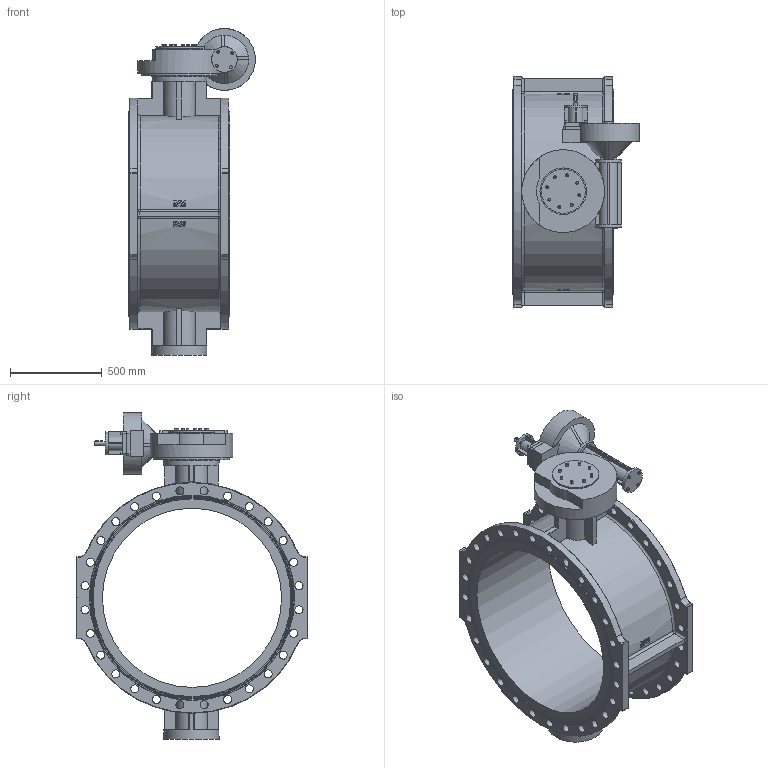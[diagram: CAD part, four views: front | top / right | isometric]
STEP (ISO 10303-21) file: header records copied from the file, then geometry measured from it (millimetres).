
FILE_DESCRIPTION (( 'STEP AP203' ), '1' );
FILE_NAME ('O_756_1_DN1000_11XX02_AA0.step', '2019-12-19T10:50:47', ( 'Windows User' ), ( 'AVK' ), 'SwSTEP 2.0', 'SolidWorks 2012', '' );
FILE_SCHEMA (( 'CONFIG_CONTROL_DESIGN' ));
Length unit declared in the file: millimetre
Products named in the file (1): O_756_1_DN1000_11XX02_AA0
Bounding box: 689 x 1255 x 1776.97 mm (x, y, z)
Volume: 168126260.2 mm3; surface area: 7238965.8 mm2
Topology: 1 solids, 1 shells, 1010 faces, 2688 edges, 1723 vertices
Faces by surface type: plane 389, cylinder 266, bspline 228, torus 71, sphere 40, cone 16
Full cylindrical faces by diameter (mm): 10 x4, 10.5 x4, 15 x16, 20 x1, 44 x56, 45.319 x1, 49.838 x1, 68.015 x1, 125 x1, 140 x2, 240 x1, 252.506 x1, 300 x2, 415 x1, 450 x1, 974 x1, 1112 x2
Entity records: 37437 total; most frequent: CARTESIAN_POINT 14845, ORIENTED_EDGE 4970, DIRECTION 3884, EDGE_CURVE 2485, VERTEX_POINT 1655, AXIS2_PLACEMENT_3D 1484, EDGE_LOOP 1318, FACE_OUTER_BOUND 1109
